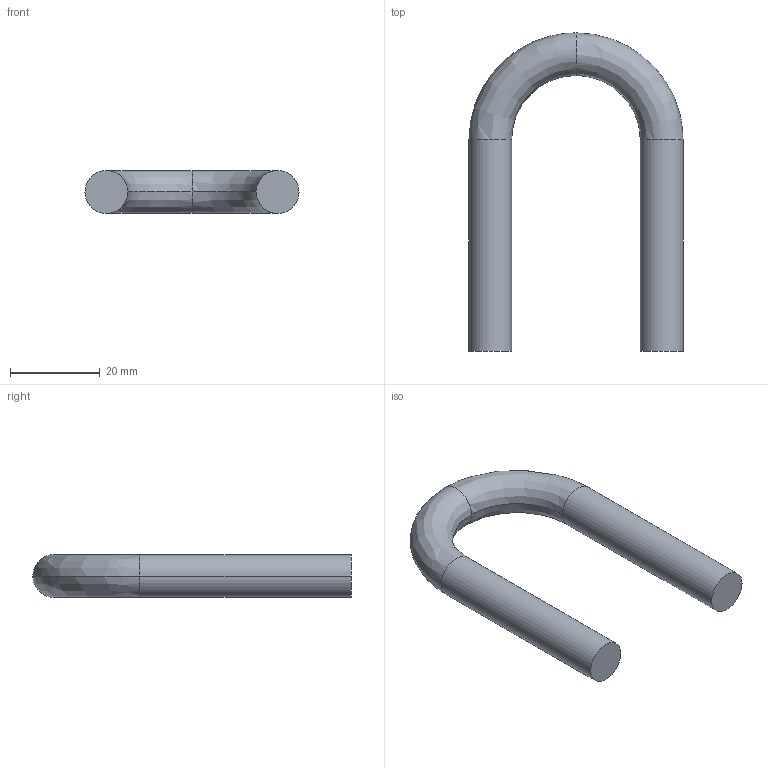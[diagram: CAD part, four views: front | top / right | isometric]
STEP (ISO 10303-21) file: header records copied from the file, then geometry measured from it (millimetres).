
FILE_DESCRIPTION(('TurboCAD Mac Pro'),'Build 980');
FILE_NAME('FUB-075.stp',' ',(''),(''),'ACIS Interop','IMSI','TurboCAD Mac Pro BY IMSI, INCORPORATED');
FILE_SCHEMA(('automotive_design'));
Length unit declared in the file: inch
Products named in the file (2): 1; 2
Bounding box: 47.62 x 70.8 x 9.53 mm (x, y, z)
Volume: 10954.1 mm3; surface area: 4744.5 mm2
Topology: 1 solids, 1 shells, 10 faces, 18 edges, 10 vertices
Faces by surface type: bspline 4, cylinder 4, plane 2
Entity records: 676 total; most frequent: CARTESIAN_POINT 330, DIRECTION 42, ORIENTED_EDGE 36, AXIS2_PLACEMENT_3D 18, EDGE_CURVE 18, STYLED_ITEM 15, PRESENTATION_STYLE_ASSIGNMENT 15, COLOUR_RGB 15
